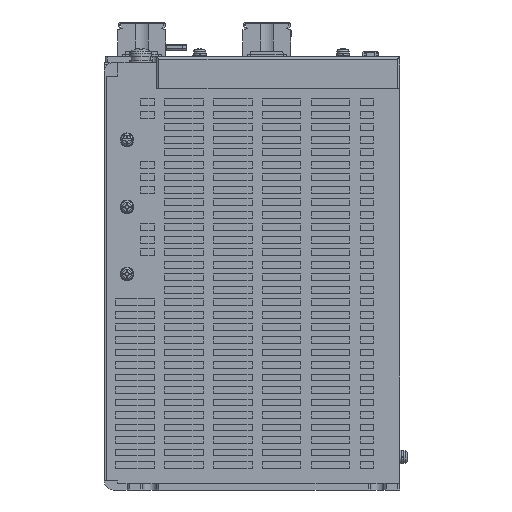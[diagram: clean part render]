
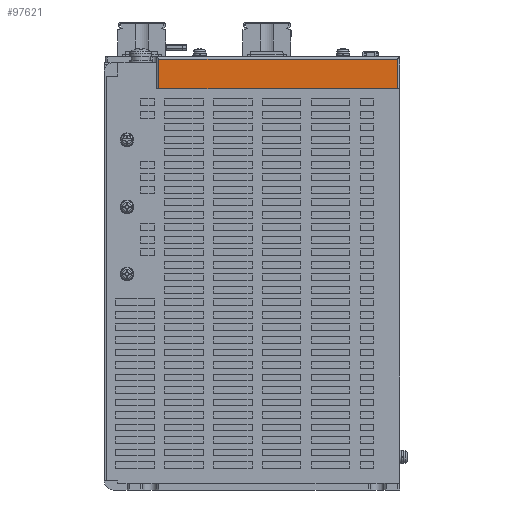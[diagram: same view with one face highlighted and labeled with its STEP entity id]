
A CAD part, front view. The second image highlights one B-rep face of the part: STEP entity #97621.
In plain terms, the highlighted planar face has unit normal (0, -1, 0).
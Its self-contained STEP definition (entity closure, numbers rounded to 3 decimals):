
#2996 = DIRECTION ( 'NONE',  ( 0., 0., -1. ) ) ;
#19737 = CARTESIAN_POINT ( 'NONE',  ( 53.621, -113.446, 459.5 ) ) ;
#20815 = ORIENTED_EDGE ( 'NONE', *, *, #241150, .T. ) ;
#27114 = CARTESIAN_POINT ( 'NONE',  ( 54.621, -113.446, 459.5 ) ) ;
#36626 = EDGE_CURVE ( 'NONE', #247099, #135090, #109776, .T. ) ;
#43754 = EDGE_LOOP ( 'NONE', ( #70813, #20815, #167151, #151787 ) ) ;
#49298 = DIRECTION ( 'NONE',  ( -1., 0., 0. ) ) ;
#53163 = VERTEX_POINT ( 'NONE', #201896 ) ;
#54396 = DIRECTION ( 'NONE',  ( 0., 0., 1. ) ) ;
#58337 = FACE_OUTER_BOUND ( 'NONE', #43754, .T. ) ;
#70813 = ORIENTED_EDGE ( 'NONE', *, *, #36626, .F. ) ;
#80118 = LINE ( 'NONE', #159820, #167402 ) ;
#89699 = LINE ( 'NONE', #250404, #234523 ) ;
#90167 = CARTESIAN_POINT ( 'NONE',  ( 54.621, -113.446, 446.5 ) ) ;
#91385 = AXIS2_PLACEMENT_3D ( 'NONE', #237341, #236054, #134188 ) ;
#97621 = ADVANCED_FACE ( 'NONE', ( #58337 ), #135464, .F. ) ;
#109776 = LINE ( 'NONE', #90167, #172123 ) ;
#118895 = EDGE_CURVE ( 'NONE', #204659, #53163, #208702, .T. ) ;
#134141 = VECTOR ( 'NONE', #49298, 1000. ) ;
#134188 = DIRECTION ( 'NONE',  ( -1., 0., 0. ) ) ;
#135090 = VERTEX_POINT ( 'NONE', #166172 ) ;
#135464 = PLANE ( 'NONE',  #91385 ) ;
#146422 = DIRECTION ( 'NONE',  ( -1., 0., 0. ) ) ;
#151787 = ORIENTED_EDGE ( 'NONE', *, *, #208318, .T. ) ;
#159820 = CARTESIAN_POINT ( 'NONE',  ( -51.379, -113.446, 460.5 ) ) ;
#165224 = CARTESIAN_POINT ( 'NONE',  ( 53.621, -113.446, 446.5 ) ) ;
#166172 = CARTESIAN_POINT ( 'NONE',  ( -51.379, -113.446, 446.5 ) ) ;
#167151 = ORIENTED_EDGE ( 'NONE', *, *, #118895, .T. ) ;
#167402 = VECTOR ( 'NONE', #2996, 1000. ) ;
#172123 = VECTOR ( 'NONE', #146422, 1000. ) ;
#201896 = CARTESIAN_POINT ( 'NONE',  ( -51.379, -113.446, 459.5 ) ) ;
#204659 = VERTEX_POINT ( 'NONE', #19737 ) ;
#208318 = EDGE_CURVE ( 'NONE', #53163, #135090, #80118, .T. ) ;
#208702 = LINE ( 'NONE', #27114, #134141 ) ;
#234523 = VECTOR ( 'NONE', #54396, 1000. ) ;
#236054 = DIRECTION ( 'NONE',  ( 0., 1., 0. ) ) ;
#237341 = CARTESIAN_POINT ( 'NONE',  ( 54.621, -113.446, 460.5 ) ) ;
#241150 = EDGE_CURVE ( 'NONE', #247099, #204659, #89699, .T. ) ;
#247099 = VERTEX_POINT ( 'NONE', #165224 ) ;
#250404 = CARTESIAN_POINT ( 'NONE',  ( 53.621, -113.446, 460.5 ) ) ;
